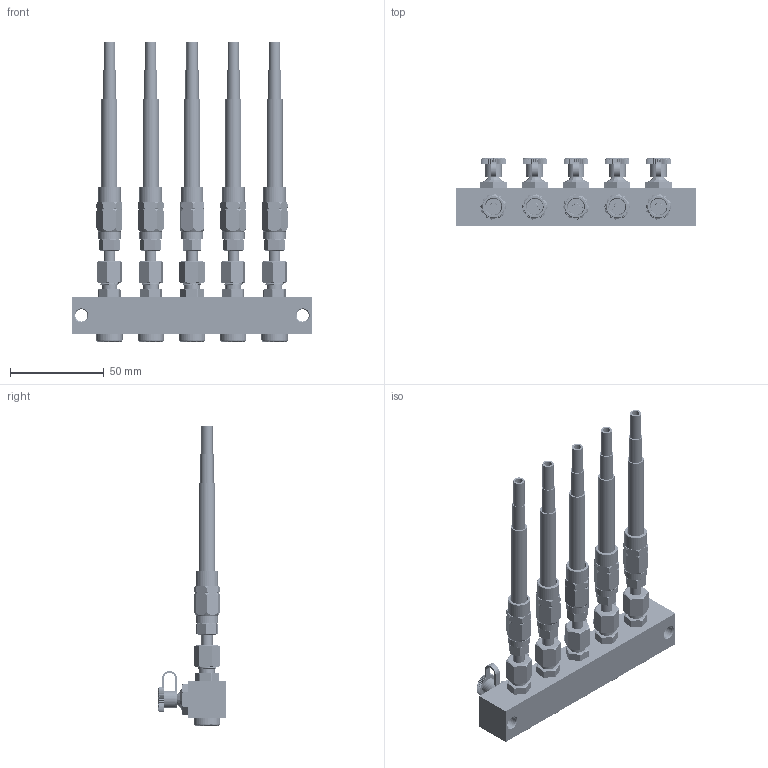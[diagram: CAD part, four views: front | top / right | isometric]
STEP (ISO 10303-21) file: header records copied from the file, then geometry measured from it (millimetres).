
FILE_DESCRIPTION (( 'STEP AP214' ), '1' );
FILE_NAME ('1460_0105_HS1.STEP', '2026-01-21T14:43:48', ( '' ), ( '' ), 'SwSTEP 2.0', 'SolidWorks 2022', '' );
FILE_SCHEMA (( 'AUTOMOTIVE_DESIGN' ));
Length unit declared in the file: millimetre
Products named in the file (19): 991214010601_Mutter; 1460_01_05_ASL-05; HD_Schlauch_Ansicht; 991214010601_Schneidring; schmiernippel_M10_1; Lasche_Staubkappe; 991214010601_Koerper; Staubkappe_Fettnippel; Schmiernippel_Staubkappe; Rohrstutzen_Schraubhuelse; POLY_6_4_gerade; 749-M10X1-A; Schraubhülse; 991214010601; HD_Schlauch_Mittelteil; Staubkappe; 1460_0105_HS1; HD_Schlauch_Aussenteil; Rohrstutzen
Assembly tree (30 placements, depth 4):
  1460_0105_HS1
    1460_01_05_ASL-05
    Rohrstutzen_Schraubhuelse  x5
      Rohrstutzen
      Schraubhülse
      HD_Schlauch_Ansicht
        HD_Schlauch_Aussenteil
        HD_Schlauch_Mittelteil
        POLY_6_4_gerade
      991214010601
        991214010601_Koerper
        991214010601_Schneidring
        991214010601_Mutter
    Schmiernippel_Staubkappe  x5
      schmiernippel_M10_1
      Staubkappe_Fettnippel
        Lasche_Staubkappe
        Staubkappe
    749-M10X1-A  x5
Bounding box: 128 x 36 x 159.6 mm (x, y, z)
Volume: 91010.3 mm3; surface area: 103049.3 mm2
Topology: 56 solids, 66 shells, 1932 faces, 4973 edges, 3258 vertices
Faces by surface type: plane 976, cylinder 453, bspline 275, cone 228
Full cylindrical faces by diameter (mm): 1.5 x5, 3 x5, 4 x5, 4.5 x5, 5 x5, 6 x60, 6.01 x5, 6.2 x5, 6.495 x5, 6.5 x2, 7 x5, 7.01 x5, 7.4 x5, 7.67 x5, 8 x75, 8.3 x5, 8.4 x5, 8.6 x5, 9 x10, 9.8 x35, 10 x10, 11.9 x5, 12 x10, 14 x5
Entity records: 79334 total; most frequent: CARTESIAN_POINT 67434, ORIENTED_EDGE 2793, DIRECTION 1576, EDGE_CURVE 1398, VERTEX_POINT 962, EDGE_LOOP 672, AXIS2_PLACEMENT_3D 591, FACE_OUTER_BOUND 578
